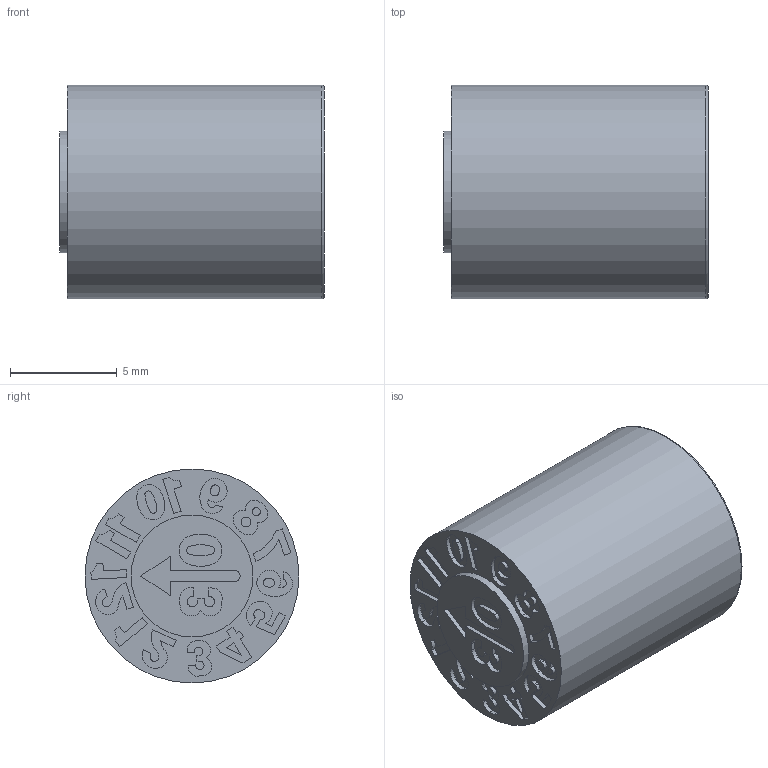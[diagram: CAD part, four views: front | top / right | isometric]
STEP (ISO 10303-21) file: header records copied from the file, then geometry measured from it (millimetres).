
FILE_DESCRIPTION( ( 'STEP AP203' ), ' ' );
FILE_NAME( 'p:/temp/worker_530/1640_2752/app_46_02016031009560455561230192d056f_000000_00_00_000000/format_0/FYM 10_200_(0.35).stp', '2016-03-10T08:56:05', ( '' ), ( '' ), ' ', 'PARTsolutions', ' ' );
FILE_SCHEMA( ( 'CONFIG_CONTROL_DESIGN' ) );
Length unit declared in the file: millimetre
Products named in the file (3): FYM 10/200*(0.35); _FYM 10/200*(0.35)1; _FYM 10/200*(0.35)2
Assembly tree (2 placements, depth 2):
  FYM 10/200*(0.35)
    _FYM 10/200*(0.35)1
    _FYM 10/200*(0.35)2
Bounding box: 12.35 x 10 x 10 mm (x, y, z)
Volume: 782.1 mm3; surface area: 900.9 mm2
Topology: 2 solids, 2 shells, 222 faces, 569 edges, 378 vertices
Faces by surface type: plane 128, cylinder 90, cone 3, torus 1
Full cylindrical faces by diameter (mm): 0.37 x1, 0.456 x1, 2.121 x1, 2.5 x1, 5.7 x2, 10 x1
Entity records: 6822 total; most frequent: DIRECTION 1192, CARTESIAN_POINT 1161, ORIENTED_EDGE 1116, EDGE_CURVE 558, AXIS2_PLACEMENT_3D 409, VERTEX_POINT 378, LINE 374, VECTOR 374
